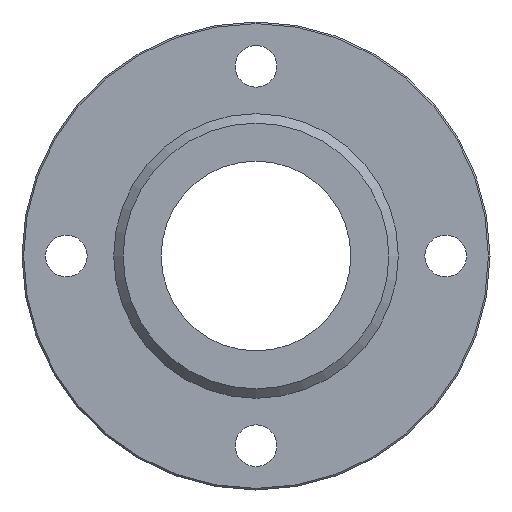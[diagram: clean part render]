
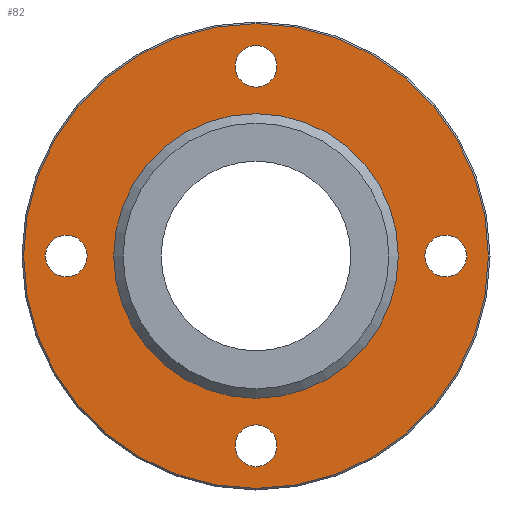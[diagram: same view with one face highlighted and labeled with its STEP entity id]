
A CAD part, left-side view. The second image highlights one B-rep face of the part: STEP entity #82.
In plain terms, the highlighted planar face has unit normal (-1, 0, 0).
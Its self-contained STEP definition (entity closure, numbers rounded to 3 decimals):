
#82=ADVANCED_FACE('',(#122,#123,#124,#125,#126,#127),#128,.F.);
#122=FACE_BOUND('',#193,.T.);
#123=FACE_BOUND('',#194,.T.);
#124=FACE_BOUND('',#195,.T.);
#125=FACE_BOUND('',#196,.T.);
#126=FACE_BOUND('',#197,.T.);
#127=FACE_OUTER_BOUND('',#198,.T.);
#128=PLANE('',#199);
#193=EDGE_LOOP('',(#278));
#194=EDGE_LOOP('',(#279));
#195=EDGE_LOOP('',(#280));
#196=EDGE_LOOP('',(#281));
#197=EDGE_LOOP('',(#282));
#198=EDGE_LOOP('',(#283));
#199=AXIS2_PLACEMENT_3D('',#284,#285,#286);
#278=ORIENTED_EDGE('',*,*,#366,.T.);
#279=ORIENTED_EDGE('',*,*,#367,.T.);
#280=ORIENTED_EDGE('',*,*,#356,.T.);
#281=ORIENTED_EDGE('',*,*,#368,.T.);
#282=ORIENTED_EDGE('',*,*,#365,.F.);
#283=ORIENTED_EDGE('',*,*,#369,.T.);
#284=CARTESIAN_POINT('',(-14.0,36.746,0.0));
#285=DIRECTION('',(1.0,0.0,0.0));
#286=DIRECTION('',(0.0,0.0,-1.0));
#356=EDGE_CURVE('',#385,#385,#386,.T.);
#365=EDGE_CURVE('',#403,#403,#404,.T.);
#366=EDGE_CURVE('',#405,#405,#406,.T.);
#367=EDGE_CURVE('',#407,#407,#408,.T.);
#368=EDGE_CURVE('',#409,#409,#410,.T.);
#369=EDGE_CURVE('',#411,#411,#412,.T.);
#385=VERTEX_POINT('',#435);
#386=CIRCLE('',#436,3.3);
#403=VERTEX_POINT('',#453);
#404=CIRCLE('',#454,22.5);
#405=VERTEX_POINT('',#455);
#406=CIRCLE('',#456,3.3);
#407=VERTEX_POINT('',#457);
#408=CIRCLE('',#458,3.3);
#409=VERTEX_POINT('',#459);
#410=CIRCLE('',#460,3.3);
#411=VERTEX_POINT('',#461);
#412=CIRCLE('',#462,36.746);
#435=CARTESIAN_POINT('',(-14.0,0.0,26.7));
#436=AXIS2_PLACEMENT_3D('',#489,#490,#491);
#453=CARTESIAN_POINT('',(-14.0,0.0,22.5));
#454=AXIS2_PLACEMENT_3D('',#516,#517,#518);
#455=CARTESIAN_POINT('',(-14.0,0.,-33.3));
#456=AXIS2_PLACEMENT_3D('',#519,#520,#521);
#457=CARTESIAN_POINT('',(-14.0,-30.0,-3.3));
#458=AXIS2_PLACEMENT_3D('',#522,#523,#524);
#459=CARTESIAN_POINT('',(-14.0,30.0,-3.3));
#460=AXIS2_PLACEMENT_3D('',#525,#526,#527);
#461=CARTESIAN_POINT('',(-14.0,0.0,36.746));
#462=AXIS2_PLACEMENT_3D('',#528,#529,#530);
#489=CARTESIAN_POINT('',(-14.0,0.0,30.0));
#490=DIRECTION('',(1.0,0.0,0.0));
#491=DIRECTION('',(0.0,0.0,-1.0));
#516=CARTESIAN_POINT('',(-14.0,0.0,0.0));
#517=DIRECTION('',(-1.0,0.0,0.0));
#518=DIRECTION('',(0.0,0.0,1.0));
#519=CARTESIAN_POINT('',(-14.0,0.,-30.0));
#520=DIRECTION('',(1.0,0.0,0.0));
#521=DIRECTION('',(0.0,0.0,-1.0));
#522=CARTESIAN_POINT('',(-14.0,-30.0,0.));
#523=DIRECTION('',(1.0,0.0,0.0));
#524=DIRECTION('',(0.0,0.0,-1.0));
#525=CARTESIAN_POINT('',(-14.0,30.0,0.0));
#526=DIRECTION('',(1.0,0.0,0.0));
#527=DIRECTION('',(0.0,0.0,-1.0));
#528=CARTESIAN_POINT('',(-14.0,0.0,0.0));
#529=DIRECTION('',(-1.0,0.0,0.0));
#530=DIRECTION('',(0.0,0.0,1.0));
